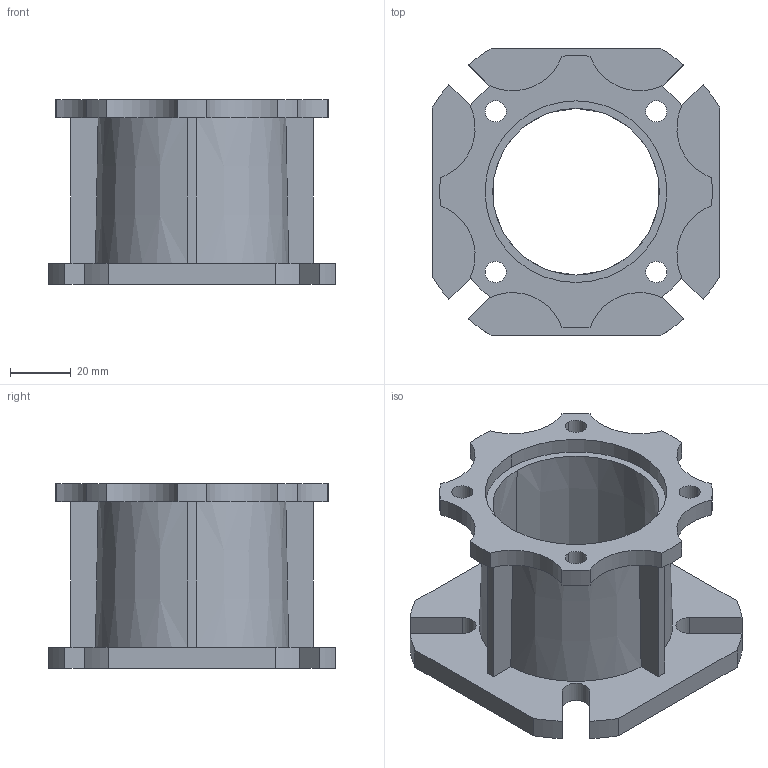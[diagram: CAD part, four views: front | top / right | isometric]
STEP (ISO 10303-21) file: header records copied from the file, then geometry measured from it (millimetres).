
FILE_DESCRIPTION((''),'2;1');
FILE_NAME('FLAOUTFLB40','2013-08-28T',('atrevisan'),(''),'PRO/ENGINEER BY PARAMETRIC TECHNOLOGY CORPORATION, 2011490','PRO/ENGINEER BY PARAMETRIC TECHNOLOGY CORPORATION, 2011490','');
FILE_SCHEMA(('CONFIG_CONTROL_DESIGN'));
Length unit declared in the file: millimetre
Products named in the file (1): FLAOUTFLB40
Bounding box: 95 x 95 x 61 mm (x, y, z)
Volume: 85078.4 mm3; surface area: 43579.9 mm2
Topology: 1 solids, 1 shells, 78 faces, 214 edges, 142 vertices
Faces by surface type: cylinder 44, plane 26, cone 8
Entity records: 2598 total; most frequent: CARTESIAN_POINT 466, DIRECTION 464, ORIENTED_EDGE 428, EDGE_CURVE 214, AXIS2_PLACEMENT_3D 180, VERTEX_POINT 142, VECTOR 104, LINE 104
